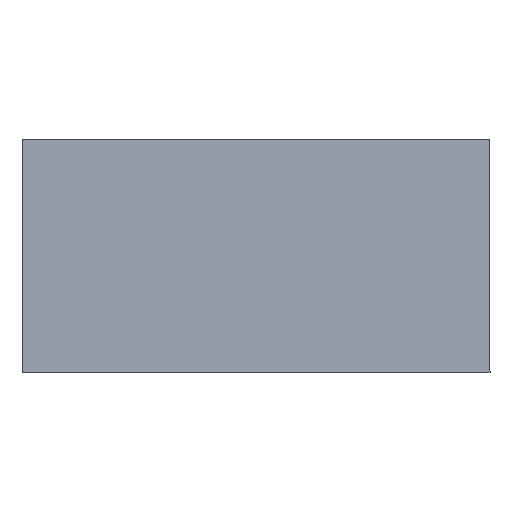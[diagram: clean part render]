
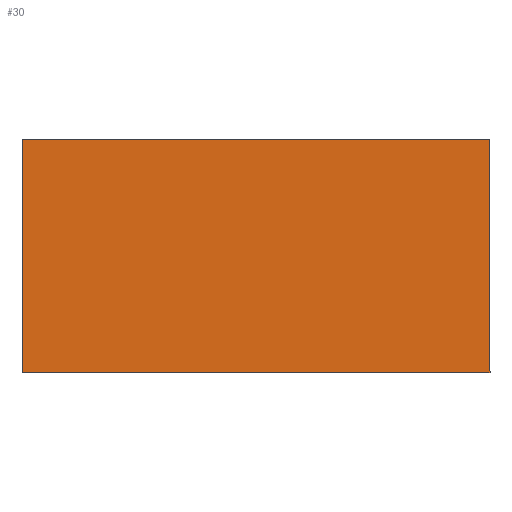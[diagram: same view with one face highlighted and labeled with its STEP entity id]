
A CAD part, left-side view. The second image highlights one B-rep face of the part: STEP entity #30.
In plain terms, the highlighted planar face has unit normal (-1, 0, 0).
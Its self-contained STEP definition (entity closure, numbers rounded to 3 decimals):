
#1 = LINE ( 'NONE', #112, #2 ) ;
#2 = VECTOR ( 'NONE', #350, 1000. ) ;
#6 = CARTESIAN_POINT ( 'NONE',  ( -270., -24., 0. ) ) ;
#9 = VECTOR ( 'NONE', #169, 1000. ) ;
#20 = CARTESIAN_POINT ( 'NONE',  ( -270., 24., 0. ) ) ;
#30 = ADVANCED_FACE ( 'NONE', ( #105 ), #252, .F. ) ;
#47 = DIRECTION ( 'NONE',  ( 1., 0., 0. ) ) ;
#48 = EDGE_CURVE ( 'NONE', #263, #149, #161, .T. ) ;
#58 = LINE ( 'NONE', #142, #9 ) ;
#75 = CARTESIAN_POINT ( 'NONE',  ( -270., 24., 24. ) ) ;
#91 = EDGE_LOOP ( 'NONE', ( #181, #132, #327, #183 ) ) ;
#103 = VERTEX_POINT ( 'NONE', #20 ) ;
#105 = FACE_OUTER_BOUND ( 'NONE', #91, .T. ) ;
#106 = EDGE_CURVE ( 'NONE', #263, #103, #134, .T. ) ;
#112 = CARTESIAN_POINT ( 'NONE',  ( -270., -24., 24. ) ) ;
#116 = CARTESIAN_POINT ( 'NONE',  ( -270., 24., 24. ) ) ;
#132 = ORIENTED_EDGE ( 'NONE', *, *, #106, .T. ) ;
#134 = LINE ( 'NONE', #75, #202 ) ;
#142 = CARTESIAN_POINT ( 'NONE',  ( -270., 24., 0. ) ) ;
#143 = CARTESIAN_POINT ( 'NONE',  ( -270., -24., 24. ) ) ;
#149 = VERTEX_POINT ( 'NONE', #143 ) ;
#150 = EDGE_CURVE ( 'NONE', #103, #359, #58, .T. ) ;
#159 = CARTESIAN_POINT ( 'NONE',  ( -270., 24., 24. ) ) ;
#161 = LINE ( 'NONE', #159, #364 ) ;
#169 = DIRECTION ( 'NONE',  ( 0., -1., 0. ) ) ;
#181 = ORIENTED_EDGE ( 'NONE', *, *, #48, .F. ) ;
#183 = ORIENTED_EDGE ( 'NONE', *, *, #316, .F. ) ;
#202 = VECTOR ( 'NONE', #305, 1000. ) ;
#252 = PLANE ( 'NONE',  #295 ) ;
#263 = VERTEX_POINT ( 'NONE', #116 ) ;
#279 = DIRECTION ( 'NONE',  ( 0., -1., 0. ) ) ;
#295 = AXIS2_PLACEMENT_3D ( 'NONE', #360, #47, #313 ) ;
#305 = DIRECTION ( 'NONE',  ( 0., 0., -1. ) ) ;
#313 = DIRECTION ( 'NONE',  ( 0., 0., -1. ) ) ;
#316 = EDGE_CURVE ( 'NONE', #149, #359, #1, .T. ) ;
#327 = ORIENTED_EDGE ( 'NONE', *, *, #150, .T. ) ;
#350 = DIRECTION ( 'NONE',  ( 0., 0., -1. ) ) ;
#359 = VERTEX_POINT ( 'NONE', #6 ) ;
#360 = CARTESIAN_POINT ( 'NONE',  ( -270., 24., 24. ) ) ;
#364 = VECTOR ( 'NONE', #279, 1000. ) ;
